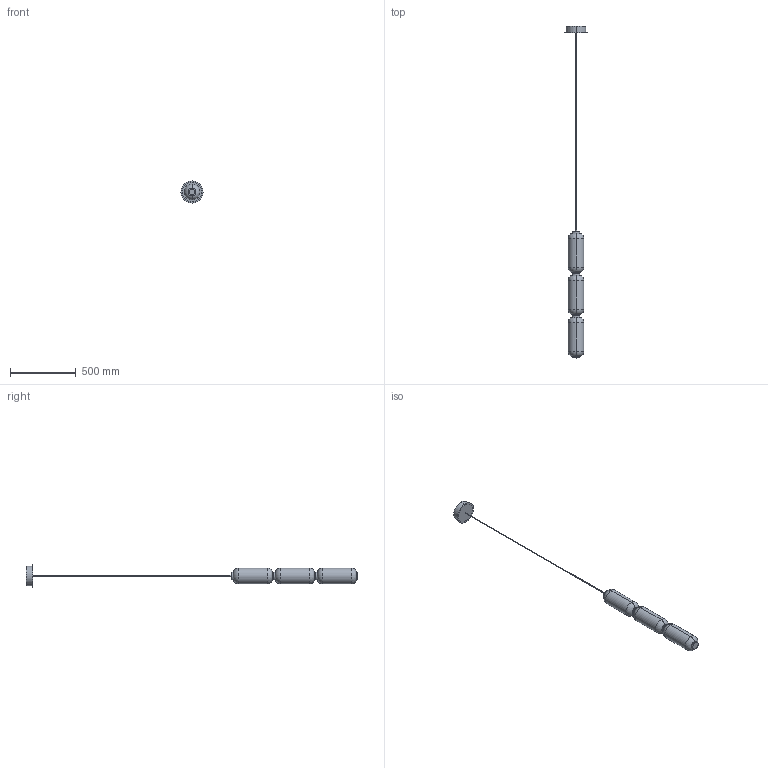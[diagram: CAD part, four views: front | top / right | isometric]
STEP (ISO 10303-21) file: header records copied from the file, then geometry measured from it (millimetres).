
FILE_DESCRIPTION (( 'STEP AP214' ), '1' );
FILE_NAME ('ELMA_CU1312-L.STEP', '2026-06-05T08:08:31', ( '' ), ( '' ), 'SwSTEP 2.0', 'SolidWorks 2023', '' );
FILE_SCHEMA (( 'AUTOMOTIVE_DESIGN' ));
Length unit declared in the file: inch
Products named in the file (1): ELMA_CU1312-L
Bounding box: 169.93 x 2527.58 x 169.93 mm (x, y, z)
Volume: 4589324.3 mm3; surface area: 860653.4 mm2
Topology: 11 solids, 11 shells, 101 faces, 180 edges, 104 vertices
Faces by surface type: cylinder 40, torus 36, plane 25
Entity records: 2607 total; most frequent: DIRECTION 524, CARTESIAN_POINT 386, ORIENTED_EDGE 360, AXIS2_PLACEMENT_3D 242, EDGE_CURVE 180, CIRCLE 140, EDGE_LOOP 104, VERTEX_POINT 104
